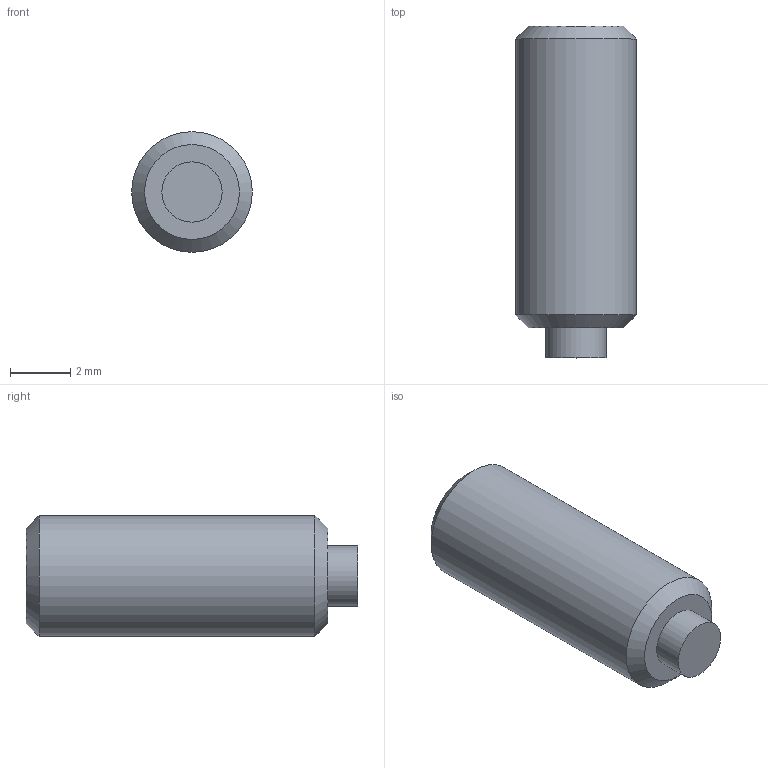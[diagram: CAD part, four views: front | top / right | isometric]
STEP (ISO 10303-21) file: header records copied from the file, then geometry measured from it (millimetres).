
FILE_DESCRIPTION( ( 'STEP AP203' ), '1' );
FILE_NAME( 'C:/Temp/Ganter_Step_05_03_2020/data/3_2/gn913_3/Grub screw GN 913.3-M4-10-KU.stp', '2020-03-13T05:35:33', ( 'License CC BY-ND 4.0' ), ( 'CADENAS' ), ' ', 'PARTsolutions', ' ' );
FILE_SCHEMA( ( 'CONFIG_CONTROL_DESIGN' ) );
Length unit declared in the file: millimetre
Products named in the file (1): _Grub screw GN 913.3-M4-10-KU
Bounding box: 4 x 11 x 4 mm (x, y, z)
Volume: 121.8 mm3; surface area: 163.3 mm2
Topology: 1 solids, 1 shells, 14 faces, 28 edges, 18 vertices
Faces by surface type: plane 10, cylinder 2, cone 2
Full cylindrical faces by diameter (mm): 2 x1, 4 x1
Entity records: 386 total; most frequent: DIRECTION 60, CARTESIAN_POINT 57, ORIENTED_EDGE 48, EDGE_CURVE 24, AXIS2_PLACEMENT_3D 21, EDGE_LOOP 20, VERTEX_POINT 18, LINE 18
